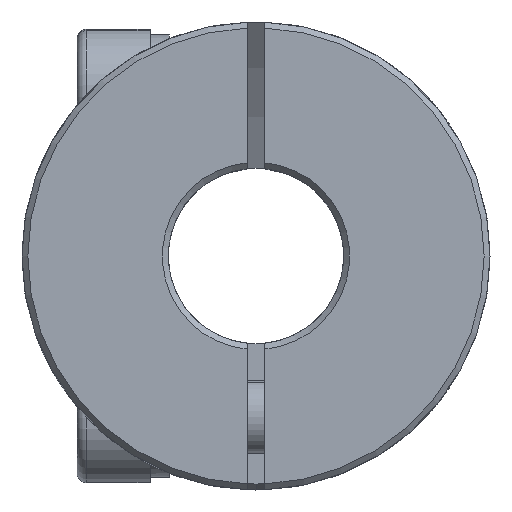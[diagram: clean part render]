
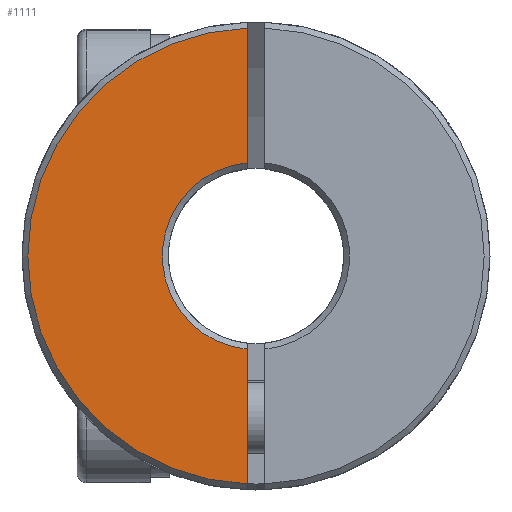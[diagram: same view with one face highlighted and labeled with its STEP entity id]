
A CAD part, front view. The second image highlights one B-rep face of the part: STEP entity #1111.
In plain terms, the highlighted planar face has unit normal (0, -1, 0).
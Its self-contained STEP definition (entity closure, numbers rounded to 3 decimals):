
#711 = AXIS2_PLACEMENT_3D ( 'NONE', #1734, #2302, #4699 ) ;
#861 = DIRECTION ( 'NONE',  ( 0., 1., 0. ) ) ;
#901 = EDGE_CURVE ( 'NONE', #4500, #3948, #1147, .T. ) ;
#908 = ORIENTED_EDGE ( 'NONE', *, *, #901, .F. ) ;
#1111 = ADVANCED_FACE ( 'NONE', ( #2075 ), #5765, .F. ) ;
#1147 = LINE ( 'NONE', #2002, #3642 ) ;
#1734 = CARTESIAN_POINT ( 'NONE',  ( 0., -15.02, 0. ) ) ;
#1974 = VECTOR ( 'NONE', #6699, 1000. ) ;
#2002 = CARTESIAN_POINT ( 'NONE',  ( -0.3, -15.02, 0. ) ) ;
#2009 = ORIENTED_EDGE ( 'NONE', *, *, #2269, .T. ) ;
#2075 = FACE_OUTER_BOUND ( 'NONE', #6128, .T. ) ;
#2139 = CIRCLE ( 'NONE', #6329, 3.2 ) ;
#2269 = EDGE_CURVE ( 'NONE', #4500, #4328, #7602, .T. ) ;
#2302 = DIRECTION ( 'NONE',  ( 0., -1., 0. ) ) ;
#2474 = CARTESIAN_POINT ( 'NONE',  ( -0.3, -15.02, 7.794 ) ) ;
#2802 = CARTESIAN_POINT ( 'NONE',  ( -0.3, -15.02, -3.186 ) ) ;
#3571 = DIRECTION ( 'NONE',  ( 0., 0., 1. ) ) ;
#3642 = VECTOR ( 'NONE', #3763, 1000. ) ;
#3763 = DIRECTION ( 'NONE',  ( 0., 0., -1. ) ) ;
#3948 = VERTEX_POINT ( 'NONE', #4829 ) ;
#3965 = CARTESIAN_POINT ( 'NONE',  ( 0., -15.02, 0. ) ) ;
#4328 = VERTEX_POINT ( 'NONE', #4667 ) ;
#4500 = VERTEX_POINT ( 'NONE', #2474 ) ;
#4564 = EDGE_CURVE ( 'NONE', #6165, #4328, #4962, .T. ) ;
#4667 = CARTESIAN_POINT ( 'NONE',  ( -0.3, -15.02, -7.794 ) ) ;
#4699 = DIRECTION ( 'NONE',  ( 0., 0., 1. ) ) ;
#4829 = CARTESIAN_POINT ( 'NONE',  ( -0.3, -15.02, 3.186 ) ) ;
#4962 = LINE ( 'NONE', #7369, #1974 ) ;
#5124 = ORIENTED_EDGE ( 'NONE', *, *, #4564, .F. ) ;
#5316 = ORIENTED_EDGE ( 'NONE', *, *, #6464, .T. ) ;
#5765 = PLANE ( 'NONE',  #5939 ) ;
#5939 = AXIS2_PLACEMENT_3D ( 'NONE', #3965, #7044, #3571 ) ;
#6128 = EDGE_LOOP ( 'NONE', ( #908, #2009, #5124, #5316 ) ) ;
#6165 = VERTEX_POINT ( 'NONE', #2802 ) ;
#6329 = AXIS2_PLACEMENT_3D ( 'NONE', #7531, #861, #7397 ) ;
#6464 = EDGE_CURVE ( 'NONE', #6165, #3948, #2139, .T. ) ;
#6699 = DIRECTION ( 'NONE',  ( 0., 0., -1. ) ) ;
#7044 = DIRECTION ( 'NONE',  ( 0., 1., 0. ) ) ;
#7369 = CARTESIAN_POINT ( 'NONE',  ( -0.3, -15.02, 0. ) ) ;
#7397 = DIRECTION ( 'NONE',  ( 0., 0., 1. ) ) ;
#7531 = CARTESIAN_POINT ( 'NONE',  ( 0., -15.02, 0. ) ) ;
#7602 = CIRCLE ( 'NONE', #711, 7.8 ) ;
